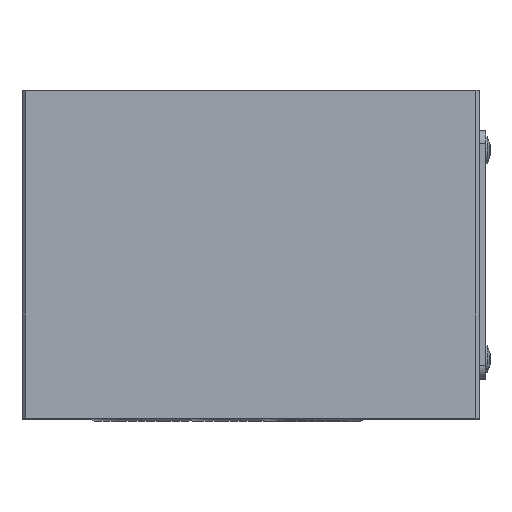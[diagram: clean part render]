
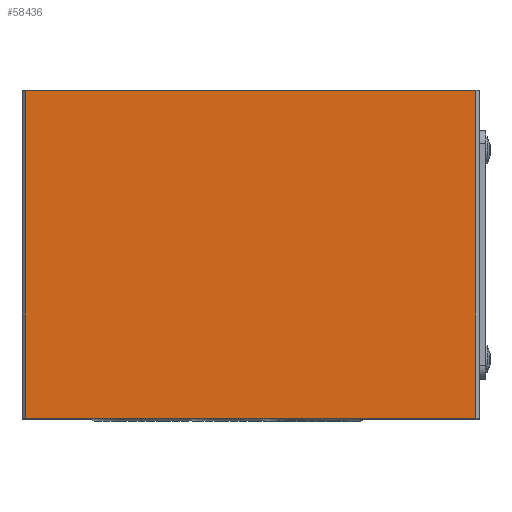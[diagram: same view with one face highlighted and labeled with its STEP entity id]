
A CAD part, top view. The second image highlights one B-rep face of the part: STEP entity #58436.
In plain terms, the highlighted planar face has unit normal (0, 0, 1).
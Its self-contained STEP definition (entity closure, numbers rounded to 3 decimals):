
#5234 = ORIENTED_EDGE ( 'NONE', *, *, #6247, .T. ) ;
#6247 = EDGE_CURVE ( 'NONE', #48662, #30531, #32069, .T. ) ;
#7853 = EDGE_CURVE ( 'NONE', #30581, #30531, #16271, .T. ) ;
#8731 = ORIENTED_EDGE ( 'NONE', *, *, #11750, .T. ) ;
#9390 = ORIENTED_EDGE ( 'NONE', *, *, #7853, .F. ) ;
#11750 = EDGE_CURVE ( 'NONE', #30581, #34375, #45348, .T. ) ;
#12521 = CARTESIAN_POINT ( 'NONE',  ( 35., -25.1, 52.5 ) ) ;
#14494 = FACE_OUTER_BOUND ( 'NONE', #57935, .T. ) ;
#16271 = LINE ( 'NONE', #12521, #22943 ) ;
#20432 = CARTESIAN_POINT ( 'NONE',  ( 34.5, 25.1, 52.5 ) ) ;
#22943 = VECTOR ( 'NONE', #60270, 1000. ) ;
#23094 = DIRECTION ( 'NONE',  ( 1., 0., 0. ) ) ;
#27038 = VECTOR ( 'NONE', #23094, 1000. ) ;
#27699 = CARTESIAN_POINT ( 'NONE',  ( 35., 25.1, 52.5 ) ) ;
#30496 = VECTOR ( 'NONE', #54664, 1000. ) ;
#30531 = VERTEX_POINT ( 'NONE', #34866 ) ;
#30581 = VERTEX_POINT ( 'NONE', #59221 ) ;
#31750 = DIRECTION ( 'NONE',  ( 0., 1., 0. ) ) ;
#32069 = LINE ( 'NONE', #59693, #30496 ) ;
#32424 = DIRECTION ( 'NONE',  ( -1., 0., 0. ) ) ;
#34375 = VERTEX_POINT ( 'NONE', #20432 ) ;
#34866 = CARTESIAN_POINT ( 'NONE',  ( -34.5, -25.1, 52.5 ) ) ;
#35112 = CARTESIAN_POINT ( 'NONE',  ( -34.5, 25.1, 52.5 ) ) ;
#36207 = ORIENTED_EDGE ( 'NONE', *, *, #41983, .F. ) ;
#38642 = AXIS2_PLACEMENT_3D ( 'NONE', #41569, #60964, #32424 ) ;
#41303 = CARTESIAN_POINT ( 'NONE',  ( 34.5, -25.1, 52.5 ) ) ;
#41569 = CARTESIAN_POINT ( 'NONE',  ( 35., -25.1, 52.5 ) ) ;
#41983 = EDGE_CURVE ( 'NONE', #48662, #34375, #61353, .T. ) ;
#42402 = VECTOR ( 'NONE', #31750, 1000. ) ;
#45348 = LINE ( 'NONE', #41303, #42402 ) ;
#48662 = VERTEX_POINT ( 'NONE', #35112 ) ;
#51298 = PLANE ( 'NONE',  #38642 ) ;
#54664 = DIRECTION ( 'NONE',  ( 0., -1., 0. ) ) ;
#57935 = EDGE_LOOP ( 'NONE', ( #9390, #8731, #36207, #5234 ) ) ;
#58436 = ADVANCED_FACE ( 'NONE', ( #14494 ), #51298, .F. ) ;
#59221 = CARTESIAN_POINT ( 'NONE',  ( 34.5, -25.1, 52.5 ) ) ;
#59693 = CARTESIAN_POINT ( 'NONE',  ( -34.5, -25.1, 52.5 ) ) ;
#60270 = DIRECTION ( 'NONE',  ( -1., 0., 0. ) ) ;
#60964 = DIRECTION ( 'NONE',  ( 0., 0., -1. ) ) ;
#61353 = LINE ( 'NONE', #27699, #27038 ) ;
